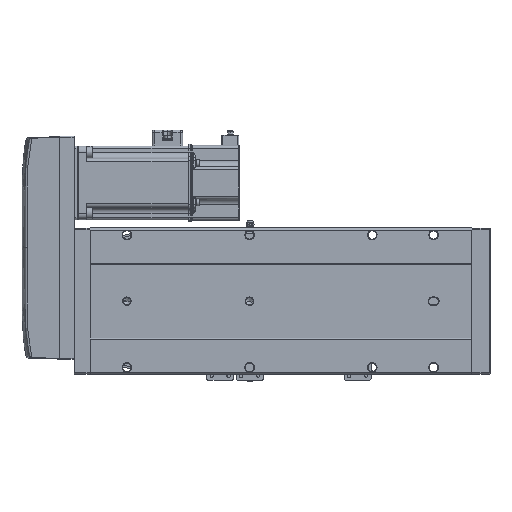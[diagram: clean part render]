
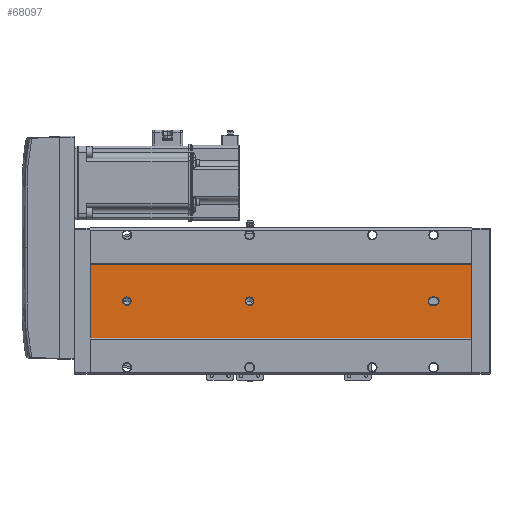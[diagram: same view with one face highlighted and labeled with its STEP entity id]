
A CAD part, front view. The second image highlights one B-rep face of the part: STEP entity #68097.
In plain terms, the highlighted planar face has unit normal (0, -1, 0).
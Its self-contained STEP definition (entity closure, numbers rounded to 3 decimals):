
#316 = ORIENTED_EDGE ( 'NONE', *, *, #32110, .T. ) ;
#430 = EDGE_LOOP ( 'NONE', ( #48974, #316 ) ) ;
#980 = CARTESIAN_POINT ( 'NONE',  ( -39.892, -52.848, 30. ) ) ;
#1707 = VERTEX_POINT ( 'NONE', #95821 ) ;
#3345 = ORIENTED_EDGE ( 'NONE', *, *, #9852, .T. ) ;
#4252 = CIRCLE ( 'NONE', #67511, 3.5 ) ;
#6514 = AXIS2_PLACEMENT_3D ( 'NONE', #93852, #85030, #39103 ) ;
#6843 = CARTESIAN_POINT ( 'NONE',  ( -36.392, -52.848, 32. ) ) ;
#6988 = DIRECTION ( 'NONE',  ( 0., 0., 1. ) ) ;
#7311 = DIRECTION ( 'NONE',  ( 0., 0., -1. ) ) ;
#7316 = DIRECTION ( 'NONE',  ( 0., 1., 0. ) ) ;
#8371 = CARTESIAN_POINT ( 'NONE',  ( -39.892, -52.848, 26.5 ) ) ;
#8761 = DIRECTION ( 'NONE',  ( 0., 0., 1. ) ) ;
#8792 = PLANE ( 'NONE',  #54326 ) ;
#9111 = DIRECTION ( 'NONE',  ( 0., 0., 1. ) ) ;
#9284 = DIRECTION ( 'NONE',  ( 0., 1., 0. ) ) ;
#9792 = CARTESIAN_POINT ( 'NONE',  ( -39.892, -52.848, 281. ) ) ;
#9852 = EDGE_CURVE ( 'NONE', #45044, #35086, #75574, .T. ) ;
#9868 = LINE ( 'NONE', #93584, #79168 ) ;
#10219 = LINE ( 'NONE', #99222, #74652 ) ;
#10962 = VERTEX_POINT ( 'NONE', #55429 ) ;
#12719 = EDGE_LOOP ( 'NONE', ( #88465, #94292, #25653, #66998 ) ) ;
#14277 = EDGE_CURVE ( 'NONE', #17677, #37500, #92775, .T. ) ;
#15815 = CARTESIAN_POINT ( 'NONE',  ( -69.892, -52.848, 311. ) ) ;
#15915 = CIRCLE ( 'NONE', #53924, 3.5 ) ;
#15959 = CARTESIAN_POINT ( 'NONE',  ( -69.892, -52.848, 311. ) ) ;
#16407 = EDGE_CURVE ( 'NONE', #1707, #46728, #20797, .T. ) ;
#16910 = FACE_BOUND ( 'NONE', #430, .T. ) ;
#17677 = VERTEX_POINT ( 'NONE', #8371 ) ;
#17994 = VECTOR ( 'NONE', #67015, 1000. ) ;
#18657 = ORIENTED_EDGE ( 'NONE', *, *, #57901, .T. ) ;
#20569 = CARTESIAN_POINT ( 'NONE',  ( -39.892, -52.848, 177.5 ) ) ;
#20797 = CIRCLE ( 'NONE', #43054, 3.5 ) ;
#21452 = EDGE_CURVE ( 'NONE', #37500, #99661, #61485, .T. ) ;
#21804 = FACE_OUTER_BOUND ( 'NONE', #12719, .T. ) ;
#21957 = CARTESIAN_POINT ( 'NONE',  ( -69.892, -52.848, 311. ) ) ;
#23042 = AXIS2_PLACEMENT_3D ( 'NONE', #53478, #7316, #6988 ) ;
#25653 = ORIENTED_EDGE ( 'NONE', *, *, #53345, .F. ) ;
#26672 = EDGE_CURVE ( 'NONE', #53955, #41735, #26769, .T. ) ;
#26769 = LINE ( 'NONE', #66278, #85969 ) ;
#27297 = CARTESIAN_POINT ( 'NONE',  ( -9.892, -52.848, 0. ) ) ;
#28200 = DIRECTION ( 'NONE',  ( 0., 0., 1. ) ) ;
#29481 = ORIENTED_EDGE ( 'NONE', *, *, #84983, .T. ) ;
#29801 = EDGE_CURVE ( 'NONE', #10962, #73722, #10219, .T. ) ;
#32110 = EDGE_CURVE ( 'NONE', #46728, #1707, #15915, .T. ) ;
#32184 = AXIS2_PLACEMENT_3D ( 'NONE', #36980, #91365, #76375 ) ;
#32565 = VECTOR ( 'NONE', #37529, 1000. ) ;
#35086 = VERTEX_POINT ( 'NONE', #44272 ) ;
#36980 = CARTESIAN_POINT ( 'NONE',  ( -39.892, -52.848, 181. ) ) ;
#37500 = VERTEX_POINT ( 'NONE', #46673 ) ;
#37529 = DIRECTION ( 'NONE',  ( 1., 0., 0. ) ) ;
#37994 = AXIS2_PLACEMENT_3D ( 'NONE', #91237, #67797, #83051 ) ;
#39103 = DIRECTION ( 'NONE',  ( 0., 0., 1. ) ) ;
#39841 = LINE ( 'NONE', #21957, #32565 ) ;
#41735 = VERTEX_POINT ( 'NONE', #60960 ) ;
#42146 = DIRECTION ( 'NONE',  ( 0., 0., -1. ) ) ;
#42188 = LINE ( 'NONE', #44218, #17994 ) ;
#42442 = CARTESIAN_POINT ( 'NONE',  ( -43.392, -52.848, 311. ) ) ;
#43054 = AXIS2_PLACEMENT_3D ( 'NONE', #62625, #9284, #78582 ) ;
#43521 = ORIENTED_EDGE ( 'NONE', *, *, #51001, .T. ) ;
#44218 = CARTESIAN_POINT ( 'NONE',  ( -69.892, -52.848, 0. ) ) ;
#44272 = CARTESIAN_POINT ( 'NONE',  ( -39.892, -52.848, 184.5 ) ) ;
#44800 = CARTESIAN_POINT ( 'NONE',  ( -39.892, -52.848, 284.5 ) ) ;
#45044 = VERTEX_POINT ( 'NONE', #20569 ) ;
#45189 = EDGE_LOOP ( 'NONE', ( #3345, #29481 ) ) ;
#46673 = CARTESIAN_POINT ( 'NONE',  ( -43.392, -52.848, 30. ) ) ;
#46728 = VERTEX_POINT ( 'NONE', #44800 ) ;
#48974 = ORIENTED_EDGE ( 'NONE', *, *, #16407, .T. ) ;
#51001 = EDGE_CURVE ( 'NONE', #61835, #73632, #9868, .T. ) ;
#53345 = EDGE_CURVE ( 'NONE', #53955, #10962, #39841, .T. ) ;
#53478 = CARTESIAN_POINT ( 'NONE',  ( -39.892, -52.848, 181. ) ) ;
#53924 = AXIS2_PLACEMENT_3D ( 'NONE', #9792, #55645, #9111 ) ;
#53955 = VERTEX_POINT ( 'NONE', #15815 ) ;
#54326 = AXIS2_PLACEMENT_3D ( 'NONE', #15959, #71296, #70298 ) ;
#55277 = DIRECTION ( 'NONE',  ( 0., 1., 0. ) ) ;
#55429 = CARTESIAN_POINT ( 'NONE',  ( -9.892, -52.848, 311. ) ) ;
#55645 = DIRECTION ( 'NONE',  ( 0., 1., 0. ) ) ;
#57901 = EDGE_CURVE ( 'NONE', #73632, #17677, #4252, .T. ) ;
#59418 = EDGE_LOOP ( 'NONE', ( #97860, #78787, #43521, #18657, #97750 ) ) ;
#60960 = CARTESIAN_POINT ( 'NONE',  ( -69.892, -52.848, 0. ) ) ;
#61485 = LINE ( 'NONE', #42442, #99284 ) ;
#61835 = VERTEX_POINT ( 'NONE', #6843 ) ;
#62625 = CARTESIAN_POINT ( 'NONE',  ( -39.892, -52.848, 281. ) ) ;
#66278 = CARTESIAN_POINT ( 'NONE',  ( -69.892, -52.848, 311. ) ) ;
#66690 = FACE_BOUND ( 'NONE', #59418, .T. ) ;
#66938 = DIRECTION ( 'NONE',  ( 0., 0., -1. ) ) ;
#66998 = ORIENTED_EDGE ( 'NONE', *, *, #26672, .T. ) ;
#67015 = DIRECTION ( 'NONE',  ( 1., 0., 0. ) ) ;
#67511 = AXIS2_PLACEMENT_3D ( 'NONE', #980, #55277, #8761 ) ;
#67797 = DIRECTION ( 'NONE',  ( 0., 1., 0. ) ) ;
#68097 = ADVANCED_FACE ( 'NONE', ( #66690, #81264, #16910, #21804 ), #8792, .F. ) ;
#70298 = DIRECTION ( 'NONE',  ( 0., 0., 1. ) ) ;
#71296 = DIRECTION ( 'NONE',  ( 0., 1., 0. ) ) ;
#73632 = VERTEX_POINT ( 'NONE', #84428 ) ;
#73722 = VERTEX_POINT ( 'NONE', #27297 ) ;
#74652 = VECTOR ( 'NONE', #66938, 1000. ) ;
#75574 = CIRCLE ( 'NONE', #32184, 3.5 ) ;
#76034 = EDGE_CURVE ( 'NONE', #99661, #61835, #84969, .T. ) ;
#76375 = DIRECTION ( 'NONE',  ( 0., 0., 1. ) ) ;
#78582 = DIRECTION ( 'NONE',  ( 0., 0., 1. ) ) ;
#78787 = ORIENTED_EDGE ( 'NONE', *, *, #76034, .T. ) ;
#79168 = VECTOR ( 'NONE', #7311, 1000. ) ;
#81264 = FACE_BOUND ( 'NONE', #45189, .T. ) ;
#83051 = DIRECTION ( 'NONE',  ( 0., 0., 1. ) ) ;
#83343 = CIRCLE ( 'NONE', #23042, 3.5 ) ;
#84428 = CARTESIAN_POINT ( 'NONE',  ( -36.392, -52.848, 30. ) ) ;
#84969 = CIRCLE ( 'NONE', #37994, 3.5 ) ;
#84983 = EDGE_CURVE ( 'NONE', #35086, #45044, #83343, .T. ) ;
#85030 = DIRECTION ( 'NONE',  ( 0., 1., 0. ) ) ;
#85428 = CARTESIAN_POINT ( 'NONE',  ( -43.392, -52.848, 32. ) ) ;
#85969 = VECTOR ( 'NONE', #42146, 1000. ) ;
#88465 = ORIENTED_EDGE ( 'NONE', *, *, #99948, .T. ) ;
#91237 = CARTESIAN_POINT ( 'NONE',  ( -39.892, -52.848, 32. ) ) ;
#91365 = DIRECTION ( 'NONE',  ( 0., 1., 0. ) ) ;
#92775 = CIRCLE ( 'NONE', #6514, 3.5 ) ;
#93584 = CARTESIAN_POINT ( 'NONE',  ( -36.392, -52.848, 311. ) ) ;
#93852 = CARTESIAN_POINT ( 'NONE',  ( -39.892, -52.848, 30. ) ) ;
#94292 = ORIENTED_EDGE ( 'NONE', *, *, #29801, .F. ) ;
#95821 = CARTESIAN_POINT ( 'NONE',  ( -39.892, -52.848, 277.5 ) ) ;
#97750 = ORIENTED_EDGE ( 'NONE', *, *, #14277, .T. ) ;
#97860 = ORIENTED_EDGE ( 'NONE', *, *, #21452, .T. ) ;
#99222 = CARTESIAN_POINT ( 'NONE',  ( -9.892, -52.848, 311. ) ) ;
#99284 = VECTOR ( 'NONE', #28200, 1000. ) ;
#99661 = VERTEX_POINT ( 'NONE', #85428 ) ;
#99948 = EDGE_CURVE ( 'NONE', #41735, #73722, #42188, .T. ) ;
